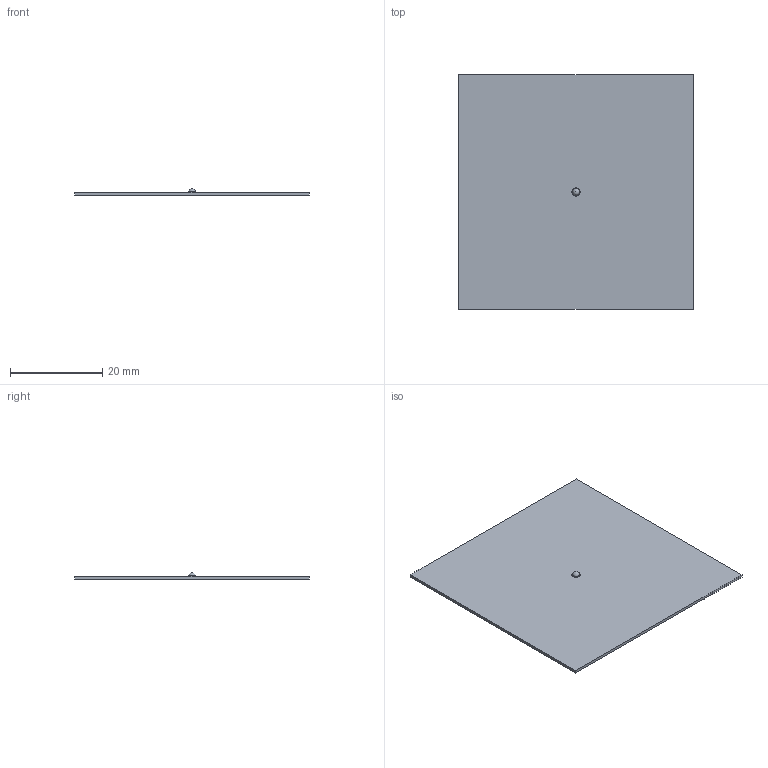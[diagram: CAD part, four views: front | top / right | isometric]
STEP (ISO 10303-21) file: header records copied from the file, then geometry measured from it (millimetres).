
FILE_DESCRIPTION((''),'1');
FILE_NAME('C:/Users/robertnolte/Desktop/WT#483080-120.stp','2012-03-30T00:32:44',(''),(''),'Spatial Interop R21 SP3','Kubotek KeyCreator 2011 V10.5.0 (24766)',' ');
FILE_SCHEMA(('CONFIG_CONTROL_DESIGN'));
Length unit declared in the file: inch
Products named in the file (1): 1
Bounding box: 50.8 x 50.8 x 1.4 mm (x, y, z)
Volume: 1606.2 mm3; surface area: 5291.7 mm2
Topology: 1 solids, 1 shells, 12 faces, 28 edges, 19 vertices
Faces by surface type: plane 7, torus 2, sphere 2, cylinder 1
Full cylindrical faces by diameter (mm): 1.041 x1
Entity records: 320 total; most frequent: DIRECTION 50, CARTESIAN_POINT 45, ORIENTED_EDGE 36, AXIS2_PLACEMENT_3D 19, EDGE_LOOP 18, EDGE_CURVE 18, VERTEX_POINT 14, ADVANCED_FACE 12
